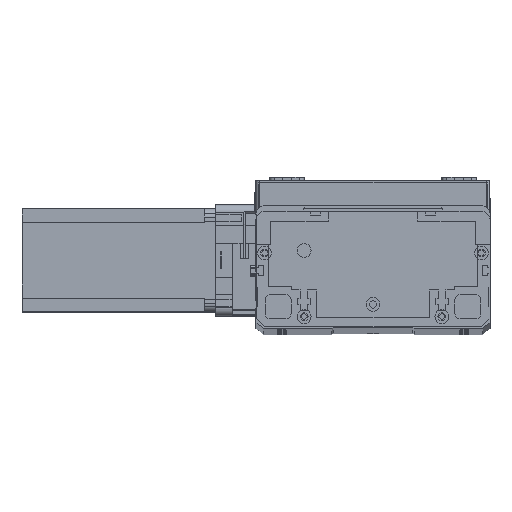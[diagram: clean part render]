
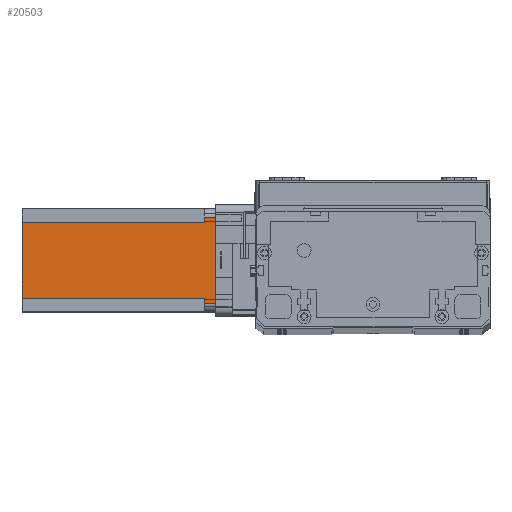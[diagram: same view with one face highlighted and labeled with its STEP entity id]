
A CAD part, top view. The second image highlights one B-rep face of the part: STEP entity #20503.
In plain terms, the highlighted planar face has unit normal (0, 0, 1) as drawn and (0, -1, 0) by its records, which use the part's own axes.
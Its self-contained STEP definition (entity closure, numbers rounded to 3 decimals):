
#1315 = VERTEX_POINT ( 'NONE', #17407 ) ;
#1354 = VECTOR ( 'NONE', #18206, 1000. ) ;
#2261 = DIRECTION ( 'NONE',  ( 0., 0., -1. ) ) ;
#2285 = VERTEX_POINT ( 'NONE', #26505 ) ;
#2323 = CARTESIAN_POINT ( 'NONE',  ( 52., 0., -112.5 ) ) ;
#2331 = VECTOR ( 'NONE', #19371, 1000. ) ;
#3507 = CARTESIAN_POINT ( 'NONE',  ( 55., 0., -112.5 ) ) ;
#3820 = LINE ( 'NONE', #14543, #19884 ) ;
#4491 = CARTESIAN_POINT ( 'NONE',  ( 52., 0., -112.5 ) ) ;
#4704 = CARTESIAN_POINT ( 'NONE',  ( 8., 0., -6.5 ) ) ;
#4969 = CARTESIAN_POINT ( 'NONE',  ( 52., 0., -6.5 ) ) ;
#4994 = EDGE_LOOP ( 'NONE', ( #11317, #26340, #22461, #6704, #15974, #13386, #22338, #12798 ) ) ;
#5069 = CARTESIAN_POINT ( 'NONE',  ( 5., 0., -112.5 ) ) ;
#5616 = VECTOR ( 'NONE', #10495, 1000. ) ;
#6704 = ORIENTED_EDGE ( 'NONE', *, *, #12224, .T. ) ;
#6895 = DIRECTION ( 'NONE',  ( 1., 0., 0. ) ) ;
#7112 = DIRECTION ( 'NONE',  ( 0., 0., -1. ) ) ;
#8268 = CARTESIAN_POINT ( 'NONE',  ( 55., 0., 0. ) ) ;
#8546 = PLANE ( 'NONE',  #17428 ) ;
#8652 = FACE_OUTER_BOUND ( 'NONE', #4994, .T. ) ;
#8965 = VECTOR ( 'NONE', #6895, 1000. ) ;
#9642 = LINE ( 'NONE', #17301, #8965 ) ;
#9786 = CARTESIAN_POINT ( 'NONE',  ( 5., 0., -6.5 ) ) ;
#10272 = VECTOR ( 'NONE', #7112, 1000. ) ;
#10348 = CARTESIAN_POINT ( 'NONE',  ( 8., 0., -6.5 ) ) ;
#10495 = DIRECTION ( 'NONE',  ( 0., 0., 1. ) ) ;
#11296 = LINE ( 'NONE', #23808, #5616 ) ;
#11308 = DIRECTION ( 'NONE',  ( 1., 0., 0. ) ) ;
#11317 = ORIENTED_EDGE ( 'NONE', *, *, #12623, .T. ) ;
#11645 = VECTOR ( 'NONE', #23188, 1000. ) ;
#11685 = EDGE_CURVE ( 'NONE', #2285, #21207, #21899, .T. ) ;
#11760 = EDGE_CURVE ( 'NONE', #1315, #21207, #9642, .T. ) ;
#11899 = EDGE_CURVE ( 'NONE', #1315, #14349, #11296, .T. ) ;
#12096 = EDGE_CURVE ( 'NONE', #14349, #18243, #19056, .T. ) ;
#12224 = EDGE_CURVE ( 'NONE', #18918, #18243, #24375, .T. ) ;
#12352 = EDGE_CURVE ( 'NONE', #16780, #13201, #18095, .T. ) ;
#12623 = EDGE_CURVE ( 'NONE', #2285, #16780, #15831, .T. ) ;
#12798 = ORIENTED_EDGE ( 'NONE', *, *, #11685, .F. ) ;
#13201 = VERTEX_POINT ( 'NONE', #8268 ) ;
#13386 = ORIENTED_EDGE ( 'NONE', *, *, #11899, .F. ) ;
#14349 = VERTEX_POINT ( 'NONE', #10348 ) ;
#14542 = CARTESIAN_POINT ( 'NONE',  ( 55., 0., -6.5 ) ) ;
#14543 = CARTESIAN_POINT ( 'NONE',  ( 0., 0., 0. ) ) ;
#14878 = DIRECTION ( 'NONE',  ( 0., -1., 0. ) ) ;
#15831 = LINE ( 'NONE', #4969, #25848 ) ;
#15974 = ORIENTED_EDGE ( 'NONE', *, *, #12096, .F. ) ;
#16780 = VERTEX_POINT ( 'NONE', #14542 ) ;
#17301 = CARTESIAN_POINT ( 'NONE',  ( 0., 0., -112.5 ) ) ;
#17407 = CARTESIAN_POINT ( 'NONE',  ( 8., 0., -112.5 ) ) ;
#17428 = AXIS2_PLACEMENT_3D ( 'NONE', #18940, #14878, #2261 ) ;
#17604 = CARTESIAN_POINT ( 'NONE',  ( 5., 0., 0. ) ) ;
#18095 = LINE ( 'NONE', #3507, #1354 ) ;
#18206 = DIRECTION ( 'NONE',  ( 0., 0., 1. ) ) ;
#18243 = VERTEX_POINT ( 'NONE', #9786 ) ;
#18918 = VERTEX_POINT ( 'NONE', #17604 ) ;
#18940 = CARTESIAN_POINT ( 'NONE',  ( 0., 0., -112.5 ) ) ;
#19056 = LINE ( 'NONE', #4704, #2331 ) ;
#19371 = DIRECTION ( 'NONE',  ( -1., 0., 0. ) ) ;
#19884 = VECTOR ( 'NONE', #24635, 1000. ) ;
#20503 = ADVANCED_FACE ( 'NONE', ( #8652 ), #8546, .T. ) ;
#21207 = VERTEX_POINT ( 'NONE', #2323 ) ;
#21899 = LINE ( 'NONE', #4491, #11645 ) ;
#22338 = ORIENTED_EDGE ( 'NONE', *, *, #11760, .T. ) ;
#22461 = ORIENTED_EDGE ( 'NONE', *, *, #24219, .F. ) ;
#23188 = DIRECTION ( 'NONE',  ( 0., 0., -1. ) ) ;
#23808 = CARTESIAN_POINT ( 'NONE',  ( 8., 0., -112.5 ) ) ;
#24219 = EDGE_CURVE ( 'NONE', #18918, #13201, #3820, .T. ) ;
#24375 = LINE ( 'NONE', #5069, #10272 ) ;
#24635 = DIRECTION ( 'NONE',  ( 1., 0., 0. ) ) ;
#25848 = VECTOR ( 'NONE', #11308, 1000. ) ;
#26340 = ORIENTED_EDGE ( 'NONE', *, *, #12352, .T. ) ;
#26505 = CARTESIAN_POINT ( 'NONE',  ( 52., 0., -6.5 ) ) ;
